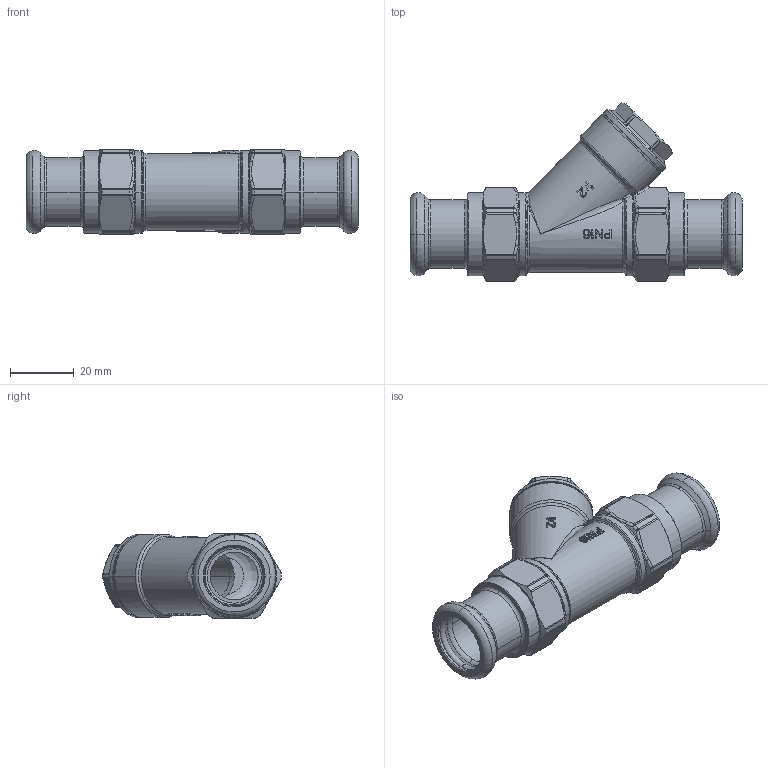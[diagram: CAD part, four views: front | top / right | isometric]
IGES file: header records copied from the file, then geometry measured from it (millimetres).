
Global section: file name: No Iges File Name specified; native system: AutoDesk Inventor R12.0; preprocessor: AutoDesk Inventor Iges Exporter R12.0; date: 20120208.143453; units: millimetre
Bounding box: 104 x 55.93 x 26.5 mm (x, y, z)
Volume: 29282.6 mm3; surface area: 25315 mm2
Topology: 1 solids, 2 shells, 617 faces, 1575 edges, 977 vertices
Faces by surface type: bspline 197, plane 129, revolution 99, cylinder 89, cone 47, torus 34, sphere 22
